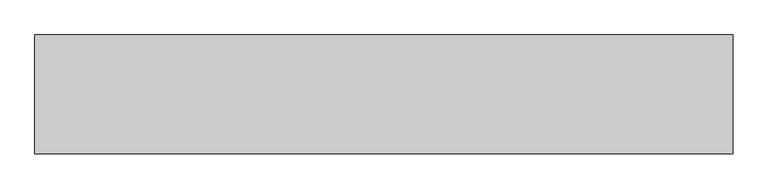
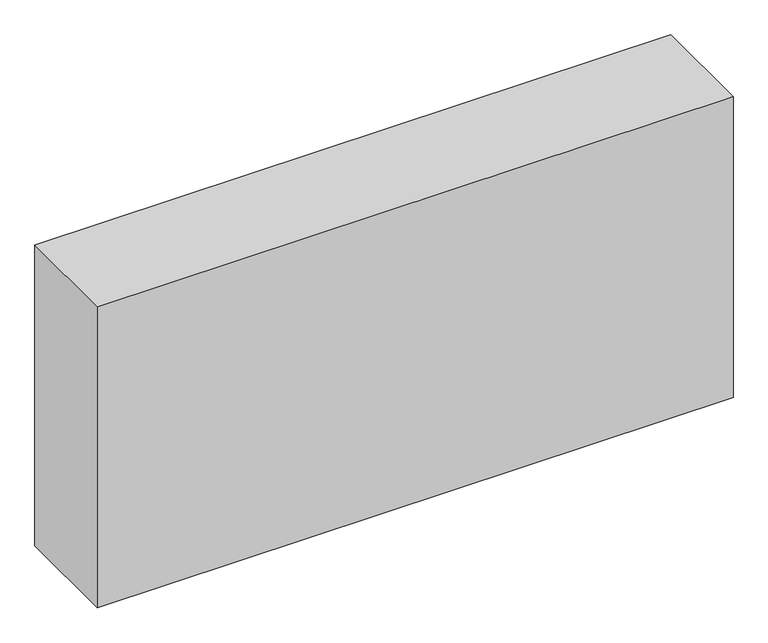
"""IFC4 building model written with IfcOpenShell, lengths in millimetres: unitary equipment geometry, nbl_Radiators : nbl_Radiators_1600."""

import ifcopenshell
import ifcopenshell.guid

model = None  # the IFC model being written
_history = None  # IfcOwnerHistory: only IFC2X3 demands one
_inside = {}  # id of a spatial element -> (the spatial element, [elements in it])
_under = {}  # id of a project, library or spatial element -> (it, [spatial elements below it])
_declared = {}  # id of a project -> (the project, [libraries it declares])
_typed = {}  # id of a type object -> (the type object, [elements of that type])
_made_of = {}  # id of a material, layer set ... -> (it, [elements and type objects made of it])


def new_model(schema):
    """Start an empty IFC model of exactly this schema.

    Asked for "IFC4X3", IfcOpenShell would pick the latest addendum, in which some entities
    have other attributes; the version numbers below select the first issue.
    IFC2X3 requires an IfcOwnerHistory on every rooted entity: one is made here for all.
    """
    global model, _history
    if schema == "IFC4X3":
        model = ifcopenshell.file(schema_version=(4, 3, 0, 0))
    else:
        model = ifcopenshell.file(schema=schema)
    _inside.clear()
    _under.clear()
    _declared.clear()
    _typed.clear()
    _made_of.clear()
    _history = None
    if model.schema == "IFC2X3":
        org = make("IfcOrganization", Name="unknown")
        user = make(
            "IfcPersonAndOrganization",
            ThePerson=make("IfcPerson", FamilyName="unknown"),
            TheOrganization=org,
        )
        app = make(
            "IfcApplication",
            ApplicationDeveloper=org,
            Version="unknown",
            ApplicationFullName="unknown",
            ApplicationIdentifier="unknown",
        )
        _history = make(
            "IfcOwnerHistory",
            OwningUser=user,
            OwningApplication=app,
            ChangeAction="ADDED",
            CreationDate=0,
        )
    return model


def make(cls, **values):
    """One entity of the class cls with the attributes given. An attribute that is None is left unset."""
    return model.create_entity(
        cls, **{name: value for name, value in values.items() if value is not None}
    )


def rooted(cls, **values):
    """An entity with a GlobalId (a new one), such as an element, a storey or a relation."""
    return make(cls, GlobalId=ifcopenshell.guid.new(), OwnerHistory=_history, **values)


def si_unit(unit_type, name, prefix=None):
    """IfcSIUnit, for example si_unit("LENGTHUNIT", "METRE", prefix="MILLI")."""
    return make("IfcSIUnit", UnitType=unit_type, Prefix=prefix, Name=name)


def assignment(units):
    """IfcUnitAssignment: the units of a project."""
    return None if units is None else make("IfcUnitAssignment", Units=units)


def point(xyz):
    """IfcCartesianPoint."""
    return None if xyz is None else make("IfcCartesianPoint", Coordinates=xyz)


def direction(xyz):
    """IfcDirection."""
    return None if xyz is None else make("IfcDirection", DirectionRatios=xyz)


def frame(location, z_axis=None, x_axis=None):
    """IfcAxis2Placement3D, a coordinate frame: its origin and axes. An axis left out is left unset."""
    return make(
        "IfcAxis2Placement3D",
        Location=point(location),
        Axis=direction(z_axis),
        RefDirection=direction(x_axis),
    )


def frame_2d(location, x_axis=None):
    """IfcAxis2Placement2D, a coordinate frame in the plane: its origin and x axis."""
    return make(
        "IfcAxis2Placement2D", Location=point(location), RefDirection=direction(x_axis)
    )


def origin():
    """The frame at (0, 0, 0) with its axes left unset."""
    return frame((0.0, 0.0, 0.0))


def origin_with_axes():
    """The frame at (0, 0, 0) with the z axis (0, 0, 1) and the x axis (1, 0, 0) written out."""
    return frame((0.0, 0.0, 0.0), z_axis=(0.0, 0.0, 1.0), x_axis=(1.0, 0.0, 0.0))


def place(relative_to, where):
    """IfcLocalPlacement: puts the frame where relative to a parent placement (None: the world)."""
    return make(
        "IfcLocalPlacement", PlacementRelTo=relative_to, RelativePlacement=where
    )


def context(
    kind, dimensions, precision=None, world=None, true_north=None, identifier=None
):
    """IfcGeometricRepresentationContext, for example the 3D "Model" context."""
    return make(
        "IfcGeometricRepresentationContext",
        ContextIdentifier=identifier,
        ContextType=kind,
        CoordinateSpaceDimension=dimensions,
        Precision=precision,
        WorldCoordinateSystem=world,
        TrueNorth=true_north,
    )


def project(units=None, contexts=None):
    """IfcProject with its units and contexts."""
    return rooted(
        "IfcProject",
        Name="project",
        RepresentationContexts=contexts,
        UnitsInContext=assignment(units),
    )


def spatial(cls, under=None, at=None, **own):
    """A site, building, storey or space (cls), placed at a placement, below another one or the project."""
    s = rooted(cls, ObjectPlacement=at, **own)
    if under is not None:
        _under.setdefault(under.id(), (under, []))[1].append(s)
    return s


def polyline(points):
    """IfcPolyline through the points."""
    return make("IfcPolyline", Points=[point(p) for p in points])


def circle_curve(where, radius):
    """IfcCircle in the frame where."""
    return make("IfcCircle", Position=where, Radius=radius)


def trimmed(basis, trim1, trim2, sense, master):
    """IfcTrimmedCurve: the piece of a basis curve between two trims."""
    return make(
        "IfcTrimmedCurve",
        BasisCurve=basis,
        Trim1=trim1,
        Trim2=trim2,
        SenseAgreement=sense,
        MasterRepresentation=master,
    )


def segment(curve, same_sense, transition):
    """IfcCompositeCurveSegment."""
    return make(
        "IfcCompositeCurveSegment",
        Transition=transition,
        SameSense=same_sense,
        ParentCurve=curve,
    )


def composite_curve(segments, self_intersect=None):
    """IfcCompositeCurve: segments joined end to end."""
    return make("IfcCompositeCurve", Segments=segments, SelfIntersect=self_intersect)


def outline(outer, holes=None, kind="AREA"):
    """IfcArbitraryClosedProfileDef: a profile drawn as a closed curve; with holes, ...WithVoids."""
    if holes is None:
        return make("IfcArbitraryClosedProfileDef", ProfileType=kind, OuterCurve=outer)
    return make(
        "IfcArbitraryProfileDefWithVoids",
        ProfileType=kind,
        OuterCurve=outer,
        InnerCurves=holes,
    )


def extrude(swept, where, along, depth):
    """IfcExtrudedAreaSolid: the profile swept, set in the frame where, extruded along a direction by depth."""
    return make(
        "IfcExtrudedAreaSolid",
        SweptArea=swept,
        Position=where,
        ExtrudedDirection=direction(along),
        Depth=depth,
    )


def faces_of(points, faces, orient=None, outer=None):
    """IfcFace entities. A face is a list of loops; a loop is a list of indices into points, from 0.

    orient and outer hold one flag for each loop. By default every Orientation is true, the
    first loop of a face is its IfcFaceOuterBound and the others are IfcFaceBound.
    """
    made = []
    for i, loops in enumerate(faces):
        bounds = []
        for j, loop in enumerate(loops):
            is_outer = j == 0 if outer is None else outer[i][j]
            bounds.append(
                make(
                    "IfcFaceOuterBound" if is_outer else "IfcFaceBound",
                    Bound=make("IfcPolyLoop", Polygon=[points[k] for k in loop]),
                    Orientation=True if orient is None else orient[i][j],
                )
            )
        made.append(make("IfcFace", Bounds=bounds))
    return made


def faceted_brep(points, faces, orient=None, outer=None, voids=None):
    """IfcFacetedBrep: a solid bounded by flat faces; with voids (closed shells), ...WithVoids."""
    shared = [point(p) for p in points]
    hull = make("IfcClosedShell", CfsFaces=faces_of(shared, faces, orient, outer))
    if voids is None:
        return make("IfcFacetedBrep", Outer=hull)
    return make(
        "IfcFacetedBrepWithVoids",
        Outer=hull,
        Voids=[
            make(cls, CfsFaces=faces_of(shared, fs, o, b)) for cls, fs, o, b in voids
        ],
    )


def shape(context_of_items, identifier, shape_type, items):
    """IfcShapeRepresentation: the items that make up one representation, for example the "Body"."""
    return make(
        "IfcShapeRepresentation",
        ContextOfItems=context_of_items,
        RepresentationIdentifier=identifier,
        RepresentationType=shape_type,
        Items=items,
    )


def source(mapping_origin, context_of_items, identifier, shape_type, items):
    """IfcRepresentationMap: a shape defined once, which mapped items show again and again."""
    return make(
        "IfcRepresentationMap",
        MappingOrigin=mapping_origin,
        MappedRepresentation=shape(context_of_items, identifier, shape_type, items),
    )


def transform(
    local_origin,
    x_axis=None,
    y_axis=None,
    z_axis=None,
    scale=None,
    scale2=None,
    scale3=None,
    uniform=True,
):
    """IfcCartesianTransformationOperator3D, or its non-uniform kind. x_axis, y_axis, z_axis: its Axis1, 2, 3."""
    if uniform:
        return make(
            "IfcCartesianTransformationOperator3D",
            Axis1=direction(x_axis),
            Axis2=direction(y_axis),
            LocalOrigin=point(local_origin),
            Scale=scale,
            Axis3=direction(z_axis),
        )
    return make(
        "IfcCartesianTransformationOperator3DnonUniform",
        Axis1=direction(x_axis),
        Axis2=direction(y_axis),
        LocalOrigin=point(local_origin),
        Scale=scale,
        Axis3=direction(z_axis),
        Scale2=scale2,
        Scale3=scale3,
    )


def mapped(mapping_source, mapping_target):
    """IfcMappedItem: shows the shape of a source again, moved by a transform."""
    return make(
        "IfcMappedItem", MappingSource=mapping_source, MappingTarget=mapping_target
    )


def made_of(thing, what):
    """Note that an element or type object is made of a material, layer set ...; save() writes the relation."""
    if what is not None:
        _made_of.setdefault(what.id(), (what, []))[1].append(thing)
    return thing


def element(
    cls,
    number,
    at=None,
    inside=None,
    cuts=None,
    type_object=None,
    material=None,
    context=None,
    identifier="Body",
    shape_type=None,
    held_by="IfcProductDefinitionShape",
    body=None,
    shapes=None,
    **own,
):
    """One element of the class cls, such as IfcWall. Its Tag is "e" and its number.

    at: its placement. inside: the storey or other place that contains it. cuts: it is an
    opening in that element (IfcRelVoidsElement). A single representation is given by context,
    identifier, shape_type and body (its items); several are given by shapes. held_by: the class
    of the entity that holds the representations. save() writes the other relations.
    """
    e = rooted(cls, Tag="e%d" % number, ObjectPlacement=at, **own)
    if body is not None:
        shapes = [shape(context, identifier, shape_type, body)]
    if shapes is not None:
        e.Representation = make(held_by, Representations=shapes)
    if inside is not None:
        _inside.setdefault(inside.id(), (inside, []))[1].append(e)
    if cuts is not None:
        rooted(
            "IfcRelVoidsElement", RelatingBuildingElement=cuts, RelatedOpeningElement=e
        )
    if type_object is not None:
        _typed.setdefault(type_object.id(), (type_object, []))[1].append(e)
    return made_of(e, material)


def aggregate(whole, parts):
    """IfcRelAggregates: a whole, such as a stair, and the parts it consists of."""
    return rooted("IfcRelAggregates", RelatingObject=whole, RelatedObjects=parts)


def save(model, path):
    """Write the relations noted so far, then the file.

    IfcRelAggregates (storeys below a building ...), IfcRelContainedInSpatialStructure (elements
    in a storey), IfcRelDefinesByType, IfcRelAssociatesMaterial and IfcRelDeclares: one each for
    every whole, place, type object, material and project.
    """
    for whole, parts in _under.values():
        aggregate(whole, parts)
    for where, things in _inside.values():
        rooted(
            "IfcRelContainedInSpatialStructure",
            RelatedElements=things,
            RelatingStructure=where,
        )
    for kind, things in _typed.values():
        rooted("IfcRelDefinesByType", RelatedObjects=things, RelatingType=kind)
    for what, things in _made_of.values():
        rooted("IfcRelAssociatesMaterial", RelatedObjects=things, RelatingMaterial=what)
    for by, libraries in _declared.values():
        rooted("IfcRelDeclares", RelatingContext=by, RelatedDefinitions=libraries)
    model.write(path)


def unitary_equipment_4d061db1(model_context):
    return source(origin(), model_context, "Body", "SolidModel", [
        extrude(outline(polyline([(971.8389423, -826.5161703), (971.8389423, -1166.5161703), (-1028.1610577, -1166.5161703), (-1028.1610577, -826.5161703), (971.8389423, -826.5161703)])), frame((0.0, 0.0, -200.0), z_axis=(0.0, 0.0, 1.0), x_axis=(1.0, 0.0, 0.0)), (0.0, 0.0, 1.0), 1000.0),
        extrude(outline(composite_curve([segment(trimmed(circle_curve(frame_2d((-916.5161703, 25.0)), 10.0), [point((-926.5161703, 25.0))], [point((-906.5161703, 25.0))], False, "CARTESIAN"), True, "CONTINUOUS"), segment(trimmed(circle_curve(frame_2d((-916.5161703, 25.0)), 10.0), [point((-906.5161703, 25.0))], [point((-926.5161703, 25.0))], False, "CARTESIAN"), True, "CONTINUOUS")], self_intersect=False)), frame((-830.1610577, 0.0, 0.0), z_axis=(1.0, 0.0, 0.0), x_axis=(0.0, 1.0, 0.0)), (0.0, 0.0, 1.0), 2.0),
        extrude(outline(composite_curve([segment(trimmed(circle_curve(frame_2d((-916.5161703, 570.0)), 10.0), [point((-926.5161703, 570.0))], [point((-906.5161703, 570.0))], False, "CARTESIAN"), True, "CONTINUOUS"), segment(trimmed(circle_curve(frame_2d((-916.5161703, 570.0)), 10.0), [point((-906.5161703, 570.0))], [point((-926.5161703, 570.0))], False, "CARTESIAN"), True, "CONTINUOUS")], self_intersect=False)), frame((-830.1610577, 0.0, 0.0), z_axis=(1.0, 0.0, 0.0), x_axis=(0.0, 1.0, 0.0)), (0.0, 0.0, 1.0), 2.0),
        extrude(outline(composite_curve([segment(trimmed(circle_curve(frame_2d((-916.5161703, 25.0)), 10.0), [point((-916.5161703, 35.0))], [point((-916.5161703, 15.0))], False, "CARTESIAN"), True, "CONTINUOUS"), segment(trimmed(circle_curve(frame_2d((-916.5161703, 25.0)), 10.0), [point((-916.5161703, 15.0))], [point((-916.5161703, 35.0))], False, "CARTESIAN"), True, "CONTINUOUS")], self_intersect=False)), frame((771.8389423, 0.0, 0.0), z_axis=(1.0, 0.0, 0.0), x_axis=(0.0, 1.0, 0.0)), (0.0, 0.0, 1.0), 2.0),
        extrude(outline(composite_curve([segment(trimmed(circle_curve(frame_2d((-916.5161703, 570.0)), 10.0), [point((-916.5161703, 580.0))], [point((-916.5161703, 560.0))], False, "CARTESIAN"), True, "CONTINUOUS"), segment(trimmed(circle_curve(frame_2d((-916.5161703, 570.0)), 10.0), [point((-916.5161703, 560.0))], [point((-916.5161703, 580.0))], False, "CARTESIAN"), True, "CONTINUOUS")], self_intersect=False)), frame((771.8389423, 0.0, 0.0), z_axis=(1.0, 0.0, 0.0), x_axis=(0.0, 1.0, 0.0)), (0.0, 0.0, 1.0), 2.0),
        faceted_brep([(751.8389423, -971.5161703, 580.0), (-808.1610577, -971.5161703, 580.0), (-808.1610577, -971.5161703, 10.0), (751.8389423, -971.5161703, 10.0), (759.8389423, -966.5161703, 588.0), (759.8389423, -966.5161703, 2.0), (-816.1610577, -966.5161703, 2.0), (-816.1610577, -966.5161703, 588.0)], [[[0, 1, 2, 3]], [[4, 5, 6, 7]], [[5, 4, 0, 3]], [[6, 5, 3, 2]], [[7, 6, 2, 1]], [[4, 7, 1, 0]]]),
        faceted_brep([(-818.1610577, -864.5161703, 0.0), (-818.1610577, -866.5161703, 0.0), (-828.1610577, -866.5161703, 0.0), (-828.1610577, -966.5161703, 0.0), (-818.1610577, -966.5161703, 0.0), (-818.1610577, -968.5161703, 0.0), (-830.1610577, -968.5161703, 0.0), (-830.1610577, -864.5161703, 0.0), (-830.1610577, -864.5161703, 602.0), (-818.1610577, -864.5161703, 602.0), (-830.1610577, -968.5161703, 602.0), (-818.1610577, -968.5161703, 602.0), (-818.1610577, -966.5161703, 600.0), (-818.1610577, -866.5161703, 600.0), (-828.1610577, -966.5161703, 600.0), (-828.1610577, -866.5161703, 600.0)], [[[0, 1, 2, 3, 4, 5, 6, 7]], [[0, 7, 8, 9]], [[8, 7, 6, 10]], [[10, 6, 5, 11]], [[11, 5, 4, 12, 13, 1, 0, 9]], [[4, 3, 14, 12]], [[3, 2, 15, 14]], [[2, 1, 13, 15]], [[13, 12, 14, 15]], [[9, 8, 10, 11]]]),
        faceted_brep([(773.8389423, -864.5161703, 0.0), (761.8389423, -864.5161703, 0.0), (761.8389423, -864.5161703, 602.0), (773.8389423, -864.5161703, 602.0), (773.8389423, -968.5161703, 602.0), (761.8389423, -968.5161703, 602.0), (761.8389423, -968.5161703, 0.0), (773.8389423, -968.5161703, 0.0), (761.8389423, -966.5161703, 600.0), (761.8389423, -866.5161703, 600.0), (771.8389423, -866.5161703, 600.0), (771.8389423, -966.5161703, 600.0), (761.8389423, -866.5161703, 0.0), (761.8389423, -966.5161703, 0.0), (771.8389423, -966.5161703, 0.0), (771.8389423, -866.5161703, 0.0)], [[[0, 1, 2, 3]], [[4, 5, 6, 7]], [[0, 3, 4, 7]], [[8, 9, 10, 11]], [[2, 1, 12, 9, 8, 13, 6, 5]], [[3, 2, 5, 4]], [[6, 13, 14, 15, 12, 1, 0, 7]], [[12, 15, 10, 9]], [[15, 14, 11, 10]], [[14, 13, 8, 11]]]),
        faceted_brep([(-818.1610577, -968.5161703, 602.0), (-818.1610577, -864.5161703, 602.0), (-818.1610577, -864.5161703, 590.0), (-818.1610577, -866.5161703, 590.0), (-818.1610577, -866.5161703, 600.0), (-818.1610577, -966.5161703, 600.0), (-818.1610577, -966.5161703, 590.0), (-818.1610577, -968.5161703, 590.0), (761.8389423, -968.5161703, 602.0), (761.8389423, -968.5161703, 590.0), (761.8389423, -966.5161703, 590.0), (761.8389423, -966.5161703, 600.0), (761.8389423, -866.5161703, 600.0), (761.8389423, -866.5161703, 590.0), (761.8389423, -864.5161703, 590.0), (761.8389423, -864.5161703, 602.0), (-808.1610577, -876.5161703, 602.0), (751.8389423, -876.5161703, 602.0), (751.8389423, -956.5161703, 602.0), (-808.1610577, -956.5161703, 602.0), (751.8389423, -876.5161703, 600.0), (-808.1610577, -876.5161703, 600.0), (-808.1610577, -956.5161703, 600.0), (751.8389423, -956.5161703, 600.0)], [[[0, 1, 2, 3, 4, 5, 6, 7]], [[8, 9, 10, 11, 12, 13, 14, 15]], [[1, 0, 8, 15], [16, 17, 18, 19]], [[2, 1, 15, 14]], [[3, 2, 14, 13]], [[4, 3, 13, 12]], [[5, 4, 12, 11], [20, 21, 22, 23]], [[6, 5, 11, 10]], [[7, 6, 10, 9]], [[0, 7, 9, 8]], [[16, 21, 20, 17]], [[18, 23, 22, 19]], [[17, 20, 23, 18]], [[21, 16, 19, 22]]]),
        extrude(outline(polyline([(-828.1610577, -866.5161703), (771.8389423, -866.5161703), (771.8389423, -876.5161703), (-828.1610577, -876.5161703), (-828.1610577, -866.5161703)])), origin_with_axes(), (0.0, 0.0, 1.0), 600.0),
        extrude(outline(polyline([(-828.1610577, -956.5161703), (771.8389423, -956.5161703), (771.8389423, -966.5161703), (-828.1610577, -966.5161703), (-828.1610577, -956.5161703)])), origin_with_axes(), (0.0, 0.0, 1.0), 600.0),
    ])


if __name__ == "__main__":
    model = new_model("IFC4")
    model_context = context("Model", 3, world=origin())
    ifc_project = project(units=[si_unit("LENGTHUNIT", "METRE", prefix="MILLI")], contexts=[model_context])
    site = spatial("IfcSite", under=ifc_project)
    building = spatial("IfcBuilding", under=site)
    placement = place(None, origin())
    unitary_equipment_shape = unitary_equipment_4d061db1(model_context)
    element("IfcUnitaryEquipment", 1, ObjectType="nbl_Radiators : nbl_Radiators_1600", at=placement, inside=building, context=model_context, shape_type="MappedRepresentation", body=[
        mapped(unitary_equipment_shape, transform((0.0, 0.0, 0.0), x_axis=(1.0, 0.0, 0.0), y_axis=(0.0, 1.0, 0.0), z_axis=(0.0, 0.0, 1.0))),
    ])
    save(model, "model.ifc")
